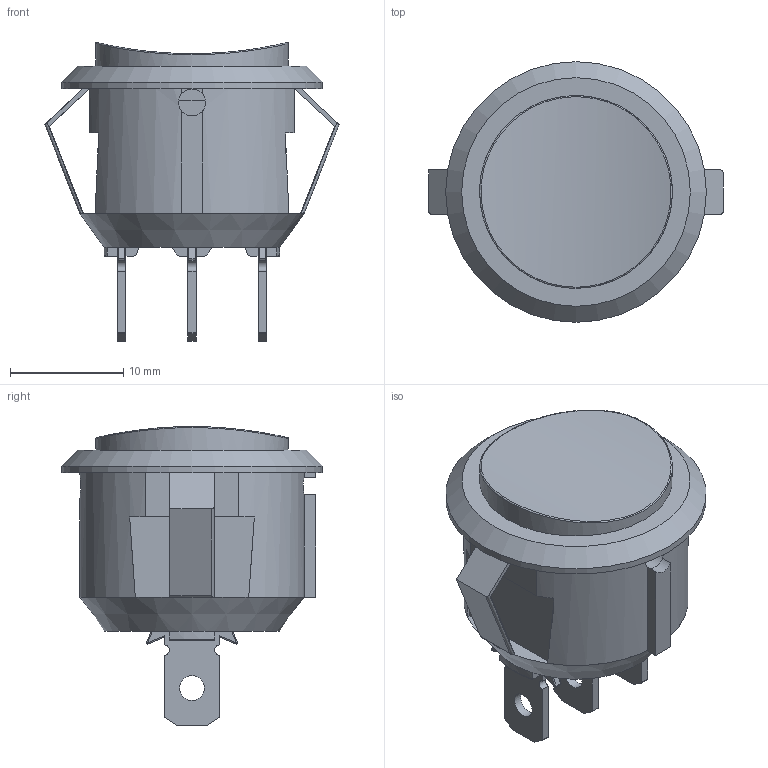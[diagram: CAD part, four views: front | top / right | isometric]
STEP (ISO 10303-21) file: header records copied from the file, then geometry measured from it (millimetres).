
FILE_DESCRIPTION(/* description */ (''),/* implementation_level */ '2;1');
FILE_NAME(/* name */ 'RA1-1G-DC-2-B.stp',/* time_stamp */ '2024-01-22T12:54:28-08:00',/* author */ ('RaniahC'),/* organization */ (''),/* preprocessor_version */ 'ST-DEVELOPER v19.2',/* originating_system */ 'Autodesk Inventor 2024',/* authorisation */ '');
FILE_SCHEMA (('AUTOMOTIVE_DESIGN { 1 0 10303 214 3 1 1 }'));
Length unit declared in the file: millimetre
Products named in the file (5): RA1-1G-DC-2-B Assembly; button; switch holder; Terminal base; RA1-1G-DC-2-B
Assembly tree (4 placements, depth 2):
  RA1-1G-DC-2-B Assembly
    button
    switch holder
    Terminal base
    RA1-1G-DC-2-B
Bounding box: 25.96 x 23 x 26.37 mm (x, y, z)
Volume: 5123.2 mm3; surface area: 4124.5 mm2
Topology: 9 solids, 9 shells, 213 faces, 542 edges, 348 vertices
Faces by surface type: plane 119, cylinder 77, sphere 12, cone 2, torus 2, bspline 1
Full cylindrical faces by diameter (mm): 2.2 x3, 17 x2, 23 x1
Entity records: 6805 total; most frequent: CARTESIAN_POINT 1345, DIRECTION 1144, ORIENTED_EDGE 1084, EDGE_CURVE 542, AXIS2_PLACEMENT_3D 395, LINE 354, VECTOR 354, VERTEX_POINT 347
